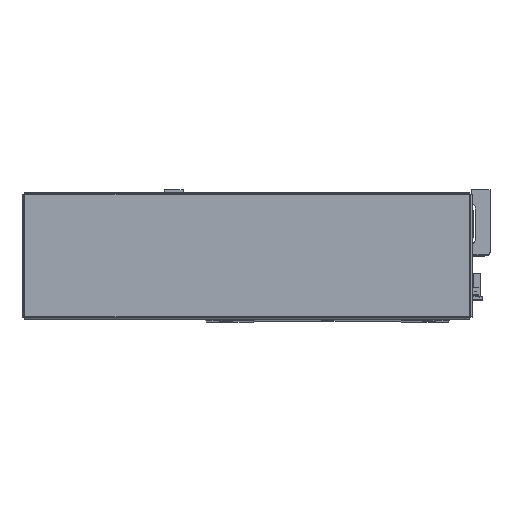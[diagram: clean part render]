
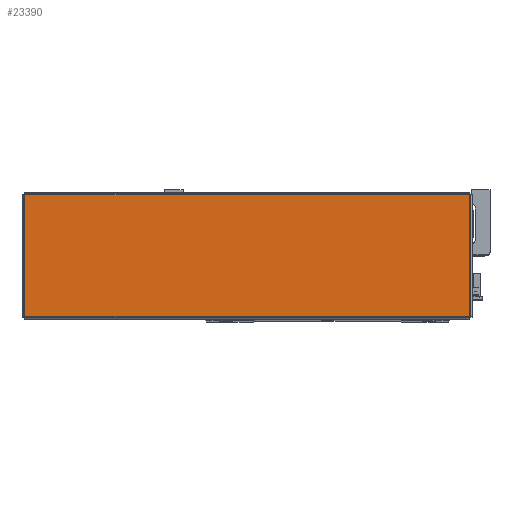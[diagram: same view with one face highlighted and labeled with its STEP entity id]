
A CAD part, top view. The second image highlights one B-rep face of the part: STEP entity #23390.
In plain terms, the highlighted planar face has unit normal (0, 0, 1) as drawn and (0, -1, 0) by its records, which use the part's own axes.
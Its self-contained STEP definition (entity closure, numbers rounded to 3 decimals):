
#2890 = ORIENTED_EDGE ( 'NONE', *, *, #15331, .T. ) ;
#2895 = ORIENTED_EDGE ( 'NONE', *, *, #15337, .T. ) ;
#2898 = ORIENTED_EDGE ( 'NONE', *, *, #15350, .T. ) ;
#2907 = ORIENTED_EDGE ( 'NONE', *, *, #15348, .T. ) ;
#3901 = EDGE_LOOP ( 'NONE', ( #2895, #2890, #2898, #2907 ) ) ;
#10249 = PLANE ( 'NONE',  #35256 ) ;
#10253 = CARTESIAN_POINT ( 'NONE',  ( 0., -1.2, 0. ) ) ;
#10265 = DIRECTION ( 'NONE',  ( 0., 1., 0. ) ) ;
#10268 = DIRECTION ( 'NONE',  ( 0., 0., 1. ) ) ;
#11170 = FACE_OUTER_BOUND ( 'NONE', #3901, .T. ) ;
#12953 = CARTESIAN_POINT ( 'NONE',  ( 154.013, -1.2, -42.293 ) ) ;
#12955 = DIRECTION ( 'NONE',  ( -1., 0., 0. ) ) ;
#12966 = DIRECTION ( 'NONE',  ( 0., 0., 1. ) ) ;
#12985 = CARTESIAN_POINT ( 'NONE',  ( 154.043, -1.2, 42.263 ) ) ;
#12998 = CARTESIAN_POINT ( 'NONE',  ( -154.013, -1.2, 42.293 ) ) ;
#13005 = CARTESIAN_POINT ( 'NONE',  ( -154.043, -1.2, -42.263 ) ) ;
#13017 = DIRECTION ( 'NONE',  ( 1., 0., 0. ) ) ;
#13022 = DIRECTION ( 'NONE',  ( 0., 0., -1. ) ) ;
#15331 = EDGE_CURVE ( 'NONE', #46414, #46527, #25861, .T. ) ;
#15337 = EDGE_CURVE ( 'NONE', #46385, #46414, #25849, .T. ) ;
#15348 = EDGE_CURVE ( 'NONE', #46494, #46385, #25931, .T. ) ;
#15350 = EDGE_CURVE ( 'NONE', #46527, #46494, #25879, .T. ) ;
#21861 = CARTESIAN_POINT ( 'NONE',  ( 154.013, -1.2, 42.263 ) ) ;
#21863 = CARTESIAN_POINT ( 'NONE',  ( 154.013, -1.2, -42.263 ) ) ;
#21909 = CARTESIAN_POINT ( 'NONE',  ( -154.013, -1.2, -42.263 ) ) ;
#21949 = CARTESIAN_POINT ( 'NONE',  ( -154.013, -1.2, 42.263 ) ) ;
#23390 = ADVANCED_FACE ( 'NONE', ( #11170 ), #10249, .F. ) ;
#25826 = VECTOR ( 'NONE', #12966, 1000. ) ;
#25849 = LINE ( 'NONE', #12953, #25826 ) ;
#25861 = LINE ( 'NONE', #12985, #25869 ) ;
#25869 = VECTOR ( 'NONE', #12955, 1000. ) ;
#25879 = LINE ( 'NONE', #12998, #25916 ) ;
#25913 = VECTOR ( 'NONE', #13017, 1000. ) ;
#25916 = VECTOR ( 'NONE', #13022, 1000. ) ;
#25931 = LINE ( 'NONE', #13005, #25913 ) ;
#35256 = AXIS2_PLACEMENT_3D ( 'NONE', #10253, #10265, #10268 ) ;
#46385 = VERTEX_POINT ( 'NONE', #21863 ) ;
#46414 = VERTEX_POINT ( 'NONE', #21861 ) ;
#46494 = VERTEX_POINT ( 'NONE', #21909 ) ;
#46527 = VERTEX_POINT ( 'NONE', #21949 ) ;
